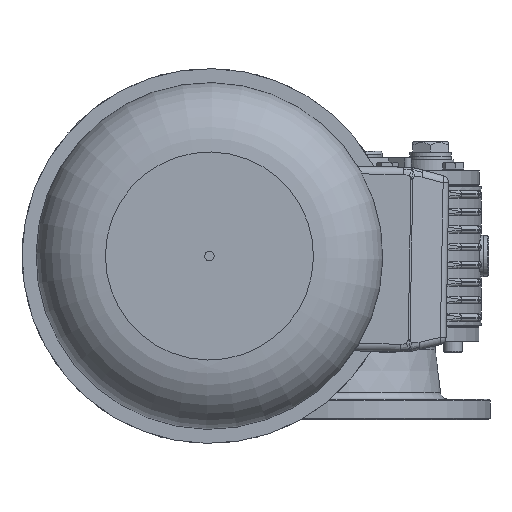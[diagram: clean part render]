
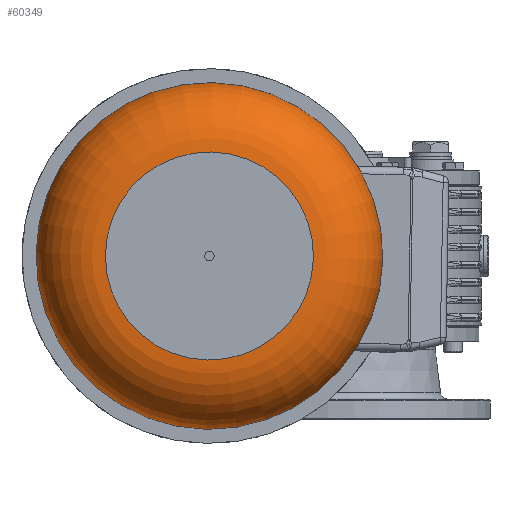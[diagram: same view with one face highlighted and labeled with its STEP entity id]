
A CAD part, left-side view. The second image highlights one B-rep face of the part: STEP entity #60349.
In plain terms, the highlighted toroidal (fillet/blend) face has major radius 55.5 mm and minor radius 37 mm.
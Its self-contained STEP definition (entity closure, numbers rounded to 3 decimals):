
#60322=CARTESIAN_POINT('',(375.0,0.0,0.0));
#60323=DIRECTION('',(1.0,0.0,0.0));
#60324=DIRECTION('',(0.0,0.0,-1.0));
#60325=AXIS2_PLACEMENT_3D('',#60322,#60323,#60324);
#60326=TOROIDAL_SURFACE('',#60325,55.5,37.0);
#60327=CARTESIAN_POINT('',(412.,55.5,0.0));
#60328=VERTEX_POINT('',#60327);
#60329=CARTESIAN_POINT('',(412.,0.0,0.0));
#60330=DIRECTION('',(1.0,0.0,0.0));
#60331=DIRECTION('',(0.0,1.0,0.0));
#60332=AXIS2_PLACEMENT_3D('',#60329,#60330,#60331);
#60333=CIRCLE('',#60332,55.5);
#60334=EDGE_CURVE('',#60328,#60328,#60333,.T.);
#60335=ORIENTED_EDGE('',*,*,#60334,.F.);
#60336=EDGE_LOOP('',(#60335));
#60337=FACE_OUTER_BOUND('',#60336,.T.);
#60338=CARTESIAN_POINT('',(375.0,92.5,0.0));
#60339=VERTEX_POINT('',#60338);
#60340=CARTESIAN_POINT('',(375.0,0.0,0.0));
#60341=DIRECTION('',(1.0,0.0,0.0));
#60342=DIRECTION('',(0.0,1.0,0.0));
#60343=AXIS2_PLACEMENT_3D('',#60340,#60341,#60342);
#60344=CIRCLE('',#60343,92.5);
#60345=EDGE_CURVE('',#60339,#60339,#60344,.T.);
#60346=ORIENTED_EDGE('',*,*,#60345,.T.);
#60347=EDGE_LOOP('',(#60346));
#60348=FACE_BOUND('',#60347,.T.);
#60349=ADVANCED_FACE('',(#60337,#60348),#60326,.T.);
